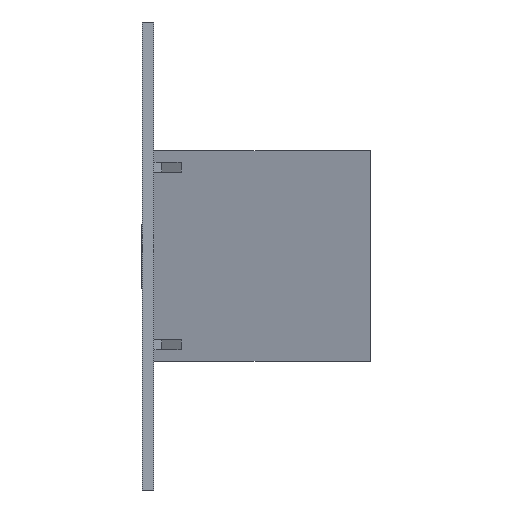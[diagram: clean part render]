
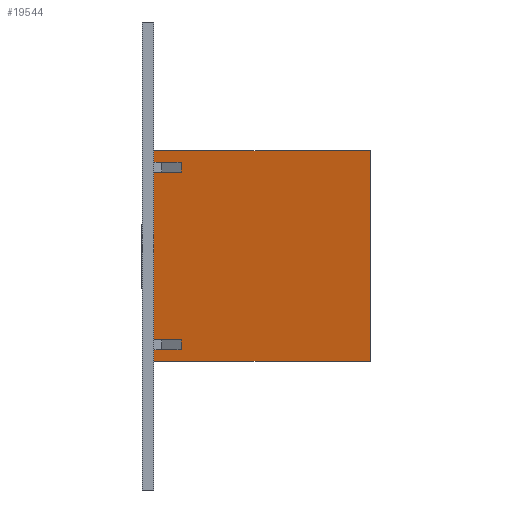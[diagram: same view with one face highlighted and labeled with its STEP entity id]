
A CAD part, left-side view. The second image highlights one B-rep face of the part: STEP entity #19544.
In plain terms, the highlighted planar face has unit normal (-0.966, 0.259, 0).
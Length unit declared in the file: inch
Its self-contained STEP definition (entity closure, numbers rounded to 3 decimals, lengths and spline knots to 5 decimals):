
#2375=FACE_OUTER_BOUND('',#3400,.T.);
#3400=EDGE_LOOP('',(#13074,#13075,#13076,#13077,#13078,#13079,#13080,#13081,
#13082,#13083,#13084,#13085));
#4521=LINE('',#29267,#6649);
#4525=LINE('',#29275,#6653);
#4528=LINE('',#29281,#6656);
#4531=LINE('',#29288,#6659);
#4535=LINE('',#29297,#6663);
#4539=LINE('',#29304,#6667);
#4541=LINE('',#29308,#6669);
#4542=LINE('',#29310,#6670);
#4543=LINE('',#29312,#6671);
#4544=LINE('',#29314,#6672);
#4545=LINE('',#29315,#6673);
#4546=LINE('',#29316,#6674);
#6649=VECTOR('',#23292,0.3937);
#6653=VECTOR('',#23298,0.3937);
#6656=VECTOR('',#23303,0.3937);
#6659=VECTOR('',#23308,0.3937);
#6663=VECTOR('',#23314,0.3937);
#6667=VECTOR('',#23320,0.3937);
#6669=VECTOR('',#23324,0.3937);
#6670=VECTOR('',#23325,0.3937);
#6671=VECTOR('',#23326,0.3937);
#6672=VECTOR('',#23327,0.3937);
#6673=VECTOR('',#23328,0.3937);
#6674=VECTOR('',#23329,0.3937);
#8761=VERTEX_POINT('',#29265);
#8762=VERTEX_POINT('',#29266);
#8765=VERTEX_POINT('',#29274);
#8767=VERTEX_POINT('',#29280);
#8769=VERTEX_POINT('',#29286);
#8770=VERTEX_POINT('',#29287);
#8773=VERTEX_POINT('',#29295);
#8774=VERTEX_POINT('',#29296);
#8777=VERTEX_POINT('',#29307);
#8778=VERTEX_POINT('',#29309);
#8779=VERTEX_POINT('',#29311);
#8780=VERTEX_POINT('',#29313);
#10432=EDGE_CURVE('',#8761,#8762,#4521,.T.);
#10436=EDGE_CURVE('',#8762,#8765,#4525,.T.);
#10439=EDGE_CURVE('',#8767,#8761,#4528,.T.);
#10442=EDGE_CURVE('',#8769,#8770,#4531,.T.);
#10446=EDGE_CURVE('',#8773,#8774,#4535,.T.);
#10450=EDGE_CURVE('',#8774,#8769,#4539,.T.);
#10452=EDGE_CURVE('',#8765,#8777,#4541,.T.);
#10453=EDGE_CURVE('',#8778,#8777,#4542,.T.);
#10454=EDGE_CURVE('',#8778,#8779,#4543,.T.);
#10455=EDGE_CURVE('',#8780,#8779,#4544,.T.);
#10456=EDGE_CURVE('',#8780,#8773,#4545,.T.);
#10457=EDGE_CURVE('',#8770,#8767,#4546,.T.);
#13074=ORIENTED_EDGE('',*,*,#10439,.T.);
#13075=ORIENTED_EDGE('',*,*,#10432,.T.);
#13076=ORIENTED_EDGE('',*,*,#10436,.T.);
#13077=ORIENTED_EDGE('',*,*,#10452,.T.);
#13078=ORIENTED_EDGE('',*,*,#10453,.F.);
#13079=ORIENTED_EDGE('',*,*,#10454,.T.);
#13080=ORIENTED_EDGE('',*,*,#10455,.F.);
#13081=ORIENTED_EDGE('',*,*,#10456,.T.);
#13082=ORIENTED_EDGE('',*,*,#10446,.T.);
#13083=ORIENTED_EDGE('',*,*,#10450,.T.);
#13084=ORIENTED_EDGE('',*,*,#10442,.T.);
#13085=ORIENTED_EDGE('',*,*,#10457,.T.);
#18120=PLANE('',#21285);
#19544=ADVANCED_FACE('',(#2375),#18120,.T.);
#21285=AXIS2_PLACEMENT_3D('',#29306,#23322,#23323);
#23292=DIRECTION('',(0.,0.,-1.));
#23298=DIRECTION('',(0.259,0.966,0.));
#23303=DIRECTION('',(-0.259,-0.966,0.));
#23308=DIRECTION('',(0.259,0.966,0.));
#23314=DIRECTION('',(-0.259,-0.966,0.));
#23320=DIRECTION('',(0.,0.,-1.));
#23322=DIRECTION('center_axis',(-0.966,0.259,0.));
#23323=DIRECTION('ref_axis',(0.259,0.966,0.));
#23324=DIRECTION('',(0.,0.,-1.));
#23325=DIRECTION('',(0.259,0.966,0.));
#23326=DIRECTION('',(0.,0.,1.));
#23327=DIRECTION('',(-0.259,-0.966,0.));
#23328=DIRECTION('',(0.,0.,-1.));
#23329=DIRECTION('',(0.,0.,-1.));
#29265=CARTESIAN_POINT('',(36.31218,-3.5,-40.75));
#29266=CARTESIAN_POINT('',(36.31218,-3.5,-42.));
#29267=CARTESIAN_POINT('',(36.31218,-3.5,-36.));
#29274=CARTESIAN_POINT('',(37.25,0.,-42.));
#29275=CARTESIAN_POINT('',(35.29899,-7.28125,-42.));
#29280=CARTESIAN_POINT('',(37.25,0.,-40.75));
#29281=CARTESIAN_POINT('',(34.86149,-8.91402,-40.75));
#29286=CARTESIAN_POINT('',(36.31218,-3.5,-19.25));
#29287=CARTESIAN_POINT('',(37.25,0.,-19.25));
#29288=CARTESIAN_POINT('',(35.29899,-7.28125,-19.25));
#29295=CARTESIAN_POINT('',(37.25,0.,-18.));
#29296=CARTESIAN_POINT('',(36.31218,-3.5,-18.));
#29297=CARTESIAN_POINT('',(34.86149,-8.91402,-18.));
#29304=CARTESIAN_POINT('',(36.31218,-3.5,-24.625));
#29306=CARTESIAN_POINT('Origin',(29.81441,-27.75,-30.));
#29307=CARTESIAN_POINT('',(37.25,0.,-43.5));
#29308=CARTESIAN_POINT('',(37.25,0.,-30.));
#29309=CARTESIAN_POINT('',(29.81441,-27.75,-43.5));
#29310=CARTESIAN_POINT('',(29.81441,-27.75,-43.5));
#29311=CARTESIAN_POINT('',(29.81441,-27.75,-16.5));
#29312=CARTESIAN_POINT('',(29.81441,-27.75,-30.));
#29313=CARTESIAN_POINT('',(37.25,0.,-16.5));
#29314=CARTESIAN_POINT('',(29.81441,-27.75,-16.5));
#29315=CARTESIAN_POINT('',(37.25,0.,-30.));
#29316=CARTESIAN_POINT('',(37.25,0.,-30.));
